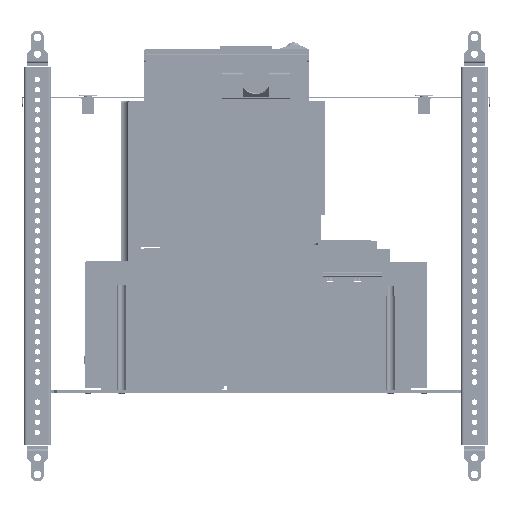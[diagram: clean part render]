
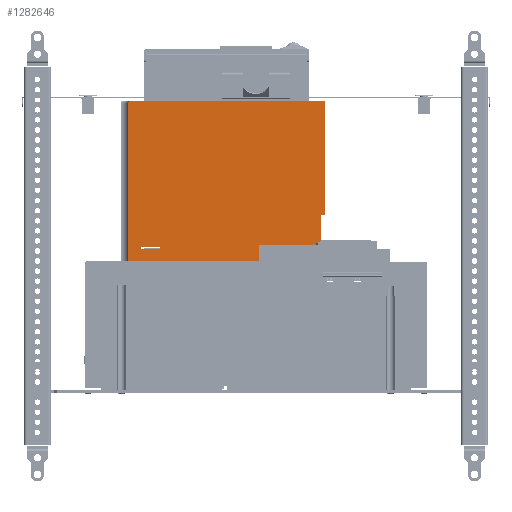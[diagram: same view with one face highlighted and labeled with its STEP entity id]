
A CAD part, left-side view. The second image highlights one B-rep face of the part: STEP entity #1282646.
In plain terms, the highlighted planar face has unit normal (-1, 0, 0).
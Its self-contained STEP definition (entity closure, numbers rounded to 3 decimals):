
#1271121=CARTESIAN_POINT(' ',(-284.261,96.633,149.853));
#1271122=VERTEX_POINT(' ',#1271121);
#1271136=CARTESIAN_POINT(' ',(-284.261,96.633,149.853));
#1271141=DIRECTION(' ',(0.,-1.,0.));
#1271146=VECTOR(' ',#1271141,1.);
#1271151=LINE('',#1271136,#1271146);
#1271156=CARTESIAN_POINT(' ',(-284.261,-47.067,149.853));
#1271157=VERTEX_POINT(' ',#1271156);
#1271161=EDGE_CURVE(' ',#1271122,#1271157,#1271151,.T.);
#1282021=CARTESIAN_POINT(' ',(-284.261,98.133,148.353));
#1282022=VERTEX_POINT(' ',#1282021);
#1282036=CARTESIAN_POINT(' ',(-284.261,96.633,148.353));
#1282041=DIRECTION(' ',(-1.,0.,0.));
#1282046=DIRECTION(' ',(0.,0.,1.));
#1282051=AXIS2_PLACEMENT_3D(' ',#1282036,#1282041,#1282046);
#1282056=CIRCLE('',#1282051,1.5);
#1282061=EDGE_CURVE(' ',#1271122,#1282022,#1282056,.T.);
#1282091=DIRECTION(' ',(-1.,0.,-0.));
#1282096=CARTESIAN_POINT(' ',(-284.261,98.133,30.353));
#1282101=DIRECTION(' ',(0.,-1.,0.));
#1282106=AXIS2_PLACEMENT_3D(' ',#1282096,#1282091,#1282101);
#1282111=PLANE('NONE',#1282106);
#1282116=ORIENTED_EDGE(' ',*,*,#1271161,.F.);
#1282121=ORIENTED_EDGE(' ',*,*,#1282061,.T.);
#1282126=CARTESIAN_POINT(' ',(-284.261,98.133,148.353));
#1282131=DIRECTION(' ',(0.,0.,-1.));
#1282136=VECTOR(' ',#1282131,1.);
#1282141=LINE('',#1282126,#1282136);
#1282146=CARTESIAN_POINT(' ',(-284.261,98.133,30.353));
#1282147=VERTEX_POINT(' ',#1282146);
#1282151=EDGE_CURVE(' ',#1282022,#1282147,#1282141,.T.);
#1282156=ORIENTED_EDGE(' ',*,*,#1282151,.T.);
#1282161=CARTESIAN_POINT(' ',(-284.261,98.133,30.353));
#1282166=DIRECTION(' ',(0.,-1.,0.));
#1282171=VECTOR(' ',#1282166,1.);
#1282176=LINE('',#1282161,#1282171);
#1282181=CARTESIAN_POINT(' ',(-284.261,0.733,30.353));
#1282182=VERTEX_POINT(' ',#1282181);
#1282186=EDGE_CURVE(' ',#1282147,#1282182,#1282176,.T.);
#1282191=ORIENTED_EDGE(' ',*,*,#1282186,.T.);
#1282196=CARTESIAN_POINT(' ',(-284.261,0.733,42.553));
#1282201=DIRECTION(' ',(0.,0.,-1.));
#1282206=VECTOR(' ',#1282201,1.);
#1282211=LINE('',#1282196,#1282206);
#1282216=CARTESIAN_POINT(' ',(-284.261,0.733,42.553));
#1282217=VERTEX_POINT(' ',#1282216);
#1282221=EDGE_CURVE(' ',#1282217,#1282182,#1282211,.T.);
#1282226=ORIENTED_EDGE(' ',*,*,#1282221,.F.);
#1282231=CARTESIAN_POINT(' ',(-284.261,-36.067,42.553));
#1282236=DIRECTION(' ',(0.,1.,0.));
#1282241=VECTOR(' ',#1282236,1.);
#1282246=LINE('',#1282231,#1282241);
#1282251=CARTESIAN_POINT(' ',(-284.261,-36.067,42.553));
#1282252=VERTEX_POINT(' ',#1282251);
#1282256=EDGE_CURVE(' ',#1282252,#1282217,#1282246,.T.);
#1282261=ORIENTED_EDGE(' ',*,*,#1282256,.F.);
#1282266=CARTESIAN_POINT(' ',(-284.261,-36.067,57.553));
#1282271=DIRECTION(' ',(-1.,0.,0.));
#1282276=DIRECTION(' ',(0.,0.,-1.));
#1282281=AXIS2_PLACEMENT_3D(' ',#1282266,#1282271,#1282276);
#1282286=CIRCLE('',#1282281,15.);
#1282291=CARTESIAN_POINT(' ',(-284.261,-44.401,45.081));
#1282292=VERTEX_POINT(' ',#1282291);
#1282296=EDGE_CURVE(' ',#1282252,#1282292,#1282286,.T.);
#1282301=ORIENTED_EDGE(' ',*,*,#1282296,.T.);
#1282306=CARTESIAN_POINT(' ',(-284.261,-43.567,46.328));
#1282311=DIRECTION(' ',(-1.,0.,0.));
#1282316=DIRECTION(' ',(0.,-0.556,-0.831));
#1282321=AXIS2_PLACEMENT_3D(' ',#1282306,#1282311,#1282316);
#1282326=CIRCLE('',#1282321,1.5);
#1282331=CARTESIAN_POINT(' ',(-284.261,-45.067,46.328));
#1282332=VERTEX_POINT(' ',#1282331);
#1282336=EDGE_CURVE(' ',#1282292,#1282332,#1282326,.T.);
#1282341=ORIENTED_EDGE(' ',*,*,#1282336,.T.);
#1282346=CARTESIAN_POINT(' ',(-284.261,-45.067,64.853));
#1282351=DIRECTION(' ',(0.,0.,-1.));
#1282356=VECTOR(' ',#1282351,1.);
#1282361=LINE('',#1282346,#1282356);
#1282366=CARTESIAN_POINT(' ',(-284.261,-45.067,64.853));
#1282367=VERTEX_POINT(' ',#1282366);
#1282371=EDGE_CURVE(' ',#1282367,#1282332,#1282361,.T.);
#1282376=ORIENTED_EDGE(' ',*,*,#1282371,.F.);
#1282381=CARTESIAN_POINT(' ',(-284.261,-45.067,64.853));
#1282386=DIRECTION(' ',(0.,-1.,0.));
#1282391=VECTOR(' ',#1282386,1.);
#1282396=LINE('',#1282381,#1282391);
#1282401=CARTESIAN_POINT(' ',(-284.261,-48.567,64.853));
#1282402=VERTEX_POINT(' ',#1282401);
#1282406=EDGE_CURVE(' ',#1282367,#1282402,#1282396,.T.);
#1282411=ORIENTED_EDGE(' ',*,*,#1282406,.T.);
#1282416=CARTESIAN_POINT(' ',(-284.261,-48.567,148.353));
#1282421=DIRECTION(' ',(0.,0.,-1.));
#1282426=VECTOR(' ',#1282421,1.);
#1282431=LINE('',#1282416,#1282426);
#1282436=CARTESIAN_POINT(' ',(-284.261,-48.567,148.353));
#1282437=VERTEX_POINT(' ',#1282436);
#1282441=EDGE_CURVE(' ',#1282437,#1282402,#1282431,.T.);
#1282446=ORIENTED_EDGE(' ',*,*,#1282441,.F.);
#1282451=CARTESIAN_POINT(' ',(-284.261,-47.067,148.353));
#1282456=DIRECTION(' ',(-1.,0.,-0.));
#1282461=DIRECTION(' ',(0.,-1.,0.));
#1282466=AXIS2_PLACEMENT_3D(' ',#1282451,#1282456,#1282461);
#1282471=CIRCLE('',#1282466,1.5);
#1282476=EDGE_CURVE(' ',#1282437,#1271157,#1282471,.T.);
#1282481=ORIENTED_EDGE(' ',*,*,#1282476,.T.);
#1282486=EDGE_LOOP(' ',(#1282116,#1282121,#1282156,#1282191,#1282226,#1282261,#1282301,#1282341,#1282376,#1282411,#1282446,#1282481));
#1282491=FACE_OUTER_BOUND(' ',#1282486,.T.);
#1282496=CARTESIAN_POINT(' ',(-284.261,74.633,40.853));
#1282501=DIRECTION(' ',(0.,1.,0.));
#1282506=VECTOR(' ',#1282501,1.);
#1282511=LINE('',#1282496,#1282506);
#1282516=CARTESIAN_POINT(' ',(-284.261,74.633,40.853));
#1282517=VERTEX_POINT(' ',#1282516);
#1282521=CARTESIAN_POINT(' ',(-284.261,88.633,40.853));
#1282522=VERTEX_POINT(' ',#1282521);
#1282526=EDGE_CURVE(' ',#1282517,#1282522,#1282511,.T.);
#1282531=ORIENTED_EDGE(' ',*,*,#1282526,.F.);
#1282536=CARTESIAN_POINT(' ',(-284.261,74.633,39.853));
#1282541=DIRECTION(' ',(0.,0.,1.));
#1282546=VECTOR(' ',#1282541,1.);
#1282551=LINE('',#1282536,#1282546);
#1282556=CARTESIAN_POINT(' ',(-284.261,74.633,39.853));
#1282557=VERTEX_POINT(' ',#1282556);
#1282561=EDGE_CURVE(' ',#1282557,#1282517,#1282551,.T.);
#1282566=ORIENTED_EDGE(' ',*,*,#1282561,.F.);
#1282571=CARTESIAN_POINT(' ',(-284.261,88.633,39.853));
#1282576=DIRECTION(' ',(0.,-1.,0.));
#1282581=VECTOR(' ',#1282576,1.);
#1282586=LINE('',#1282571,#1282581);
#1282591=CARTESIAN_POINT(' ',(-284.261,88.633,39.853));
#1282592=VERTEX_POINT(' ',#1282591);
#1282596=EDGE_CURVE(' ',#1282592,#1282557,#1282586,.T.);
#1282601=ORIENTED_EDGE(' ',*,*,#1282596,.F.);
#1282606=CARTESIAN_POINT(' ',(-284.261,88.633,40.853));
#1282611=DIRECTION(' ',(0.,0.,-1.));
#1282616=VECTOR(' ',#1282611,1.);
#1282621=LINE('',#1282606,#1282616);
#1282626=EDGE_CURVE(' ',#1282522,#1282592,#1282621,.T.);
#1282631=ORIENTED_EDGE(' ',*,*,#1282626,.F.);
#1282636=EDGE_LOOP(' ',(#1282531,#1282566,#1282601,#1282631));
#1282641=FACE_BOUND(' ',#1282636,.T.);
#1282646=ADVANCED_FACE('NONE',(#1282491,#1282641),#1282111,.T.);
